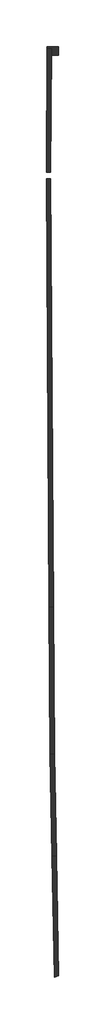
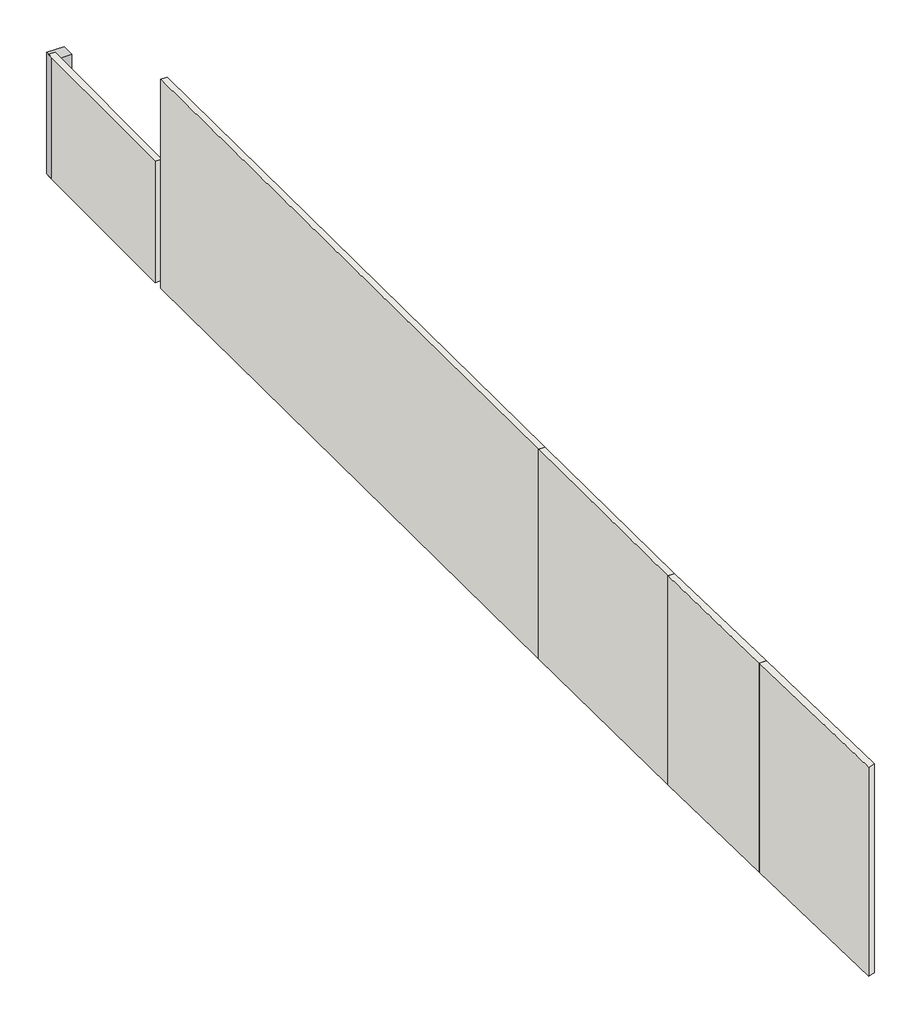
# One storey: 5 walls, 1 column.
"""IFC4 building model written with IfcOpenShell, lengths in millimetres."""

import ifcopenshell
import ifcopenshell.guid

model = None  # the IFC model being written
_history = None  # IfcOwnerHistory: only IFC2X3 demands one
_inside = {}  # id of a spatial element -> (the spatial element, [elements in it])
_under = {}  # id of a project, library or spatial element -> (it, [spatial elements below it])
_declared = {}  # id of a project -> (the project, [libraries it declares])
_typed = {}  # id of a type object -> (the type object, [elements of that type])
_made_of = {}  # id of a material, layer set ... -> (it, [elements and type objects made of it])


def new_model(schema):
    """Start an empty IFC model of exactly this schema.

    Asked for "IFC4X3", IfcOpenShell would pick the latest addendum, in which some entities
    have other attributes; the version numbers below select the first issue.
    IFC2X3 requires an IfcOwnerHistory on every rooted entity: one is made here for all.
    """
    global model, _history
    if schema == "IFC4X3":
        model = ifcopenshell.file(schema_version=(4, 3, 0, 0))
    else:
        model = ifcopenshell.file(schema=schema)
    _inside.clear()
    _under.clear()
    _declared.clear()
    _typed.clear()
    _made_of.clear()
    _history = None
    if model.schema == "IFC2X3":
        org = make("IfcOrganization", Name="unknown")
        user = make(
            "IfcPersonAndOrganization",
            ThePerson=make("IfcPerson", FamilyName="unknown"),
            TheOrganization=org,
        )
        app = make(
            "IfcApplication",
            ApplicationDeveloper=org,
            Version="unknown",
            ApplicationFullName="unknown",
            ApplicationIdentifier="unknown",
        )
        _history = make(
            "IfcOwnerHistory",
            OwningUser=user,
            OwningApplication=app,
            ChangeAction="ADDED",
            CreationDate=0,
        )
    return model


def make(cls, **values):
    """One entity of the class cls with the attributes given. An attribute that is None is left unset."""
    return model.create_entity(
        cls, **{name: value for name, value in values.items() if value is not None}
    )


def rooted(cls, **values):
    """An entity with a GlobalId (a new one), such as an element, a storey or a relation."""
    return make(cls, GlobalId=ifcopenshell.guid.new(), OwnerHistory=_history, **values)


def si_unit(unit_type, name, prefix=None):
    """IfcSIUnit, for example si_unit("LENGTHUNIT", "METRE", prefix="MILLI")."""
    return make("IfcSIUnit", UnitType=unit_type, Prefix=prefix, Name=name)


def assignment(units):
    """IfcUnitAssignment: the units of a project."""
    return None if units is None else make("IfcUnitAssignment", Units=units)


def point(xyz):
    """IfcCartesianPoint."""
    return None if xyz is None else make("IfcCartesianPoint", Coordinates=xyz)


def direction(xyz):
    """IfcDirection."""
    return None if xyz is None else make("IfcDirection", DirectionRatios=xyz)


def frame(location, z_axis=None, x_axis=None):
    """IfcAxis2Placement3D, a coordinate frame: its origin and axes. An axis left out is left unset."""
    return make(
        "IfcAxis2Placement3D",
        Location=point(location),
        Axis=direction(z_axis),
        RefDirection=direction(x_axis),
    )


def origin():
    """The frame at (0, 0, 0) with its axes left unset."""
    return frame((0.0, 0.0, 0.0))


def place(relative_to, where):
    """IfcLocalPlacement: puts the frame where relative to a parent placement (None: the world)."""
    return make(
        "IfcLocalPlacement", PlacementRelTo=relative_to, RelativePlacement=where
    )


def context(
    kind, dimensions, precision=None, world=None, true_north=None, identifier=None
):
    """IfcGeometricRepresentationContext, for example the 3D "Model" context."""
    return make(
        "IfcGeometricRepresentationContext",
        ContextIdentifier=identifier,
        ContextType=kind,
        CoordinateSpaceDimension=dimensions,
        Precision=precision,
        WorldCoordinateSystem=world,
        TrueNorth=true_north,
    )


def project(units=None, contexts=None):
    """IfcProject with its units and contexts."""
    return rooted(
        "IfcProject",
        Name="project",
        RepresentationContexts=contexts,
        UnitsInContext=assignment(units),
    )


def spatial(cls, under=None, at=None, **own):
    """A site, building, storey or space (cls), placed at a placement, below another one or the project."""
    s = rooted(cls, ObjectPlacement=at, **own)
    if under is not None:
        _under.setdefault(under.id(), (under, []))[1].append(s)
    return s


def polyline(points):
    """IfcPolyline through the points."""
    return make("IfcPolyline", Points=[point(p) for p in points])


def outline(outer, holes=None, kind="AREA"):
    """IfcArbitraryClosedProfileDef: a profile drawn as a closed curve; with holes, ...WithVoids."""
    if holes is None:
        return make("IfcArbitraryClosedProfileDef", ProfileType=kind, OuterCurve=outer)
    return make(
        "IfcArbitraryProfileDefWithVoids",
        ProfileType=kind,
        OuterCurve=outer,
        InnerCurves=holes,
    )


def extrude(swept, where, along, depth):
    """IfcExtrudedAreaSolid: the profile swept, set in the frame where, extruded along a direction by depth."""
    return make(
        "IfcExtrudedAreaSolid",
        SweptArea=swept,
        Position=where,
        ExtrudedDirection=direction(along),
        Depth=depth,
    )


def faces_of(points, faces, orient=None, outer=None):
    """IfcFace entities. A face is a list of loops; a loop is a list of indices into points, from 0.

    orient and outer hold one flag for each loop. By default every Orientation is true, the
    first loop of a face is its IfcFaceOuterBound and the others are IfcFaceBound.
    """
    made = []
    for i, loops in enumerate(faces):
        bounds = []
        for j, loop in enumerate(loops):
            is_outer = j == 0 if outer is None else outer[i][j]
            bounds.append(
                make(
                    "IfcFaceOuterBound" if is_outer else "IfcFaceBound",
                    Bound=make("IfcPolyLoop", Polygon=[points[k] for k in loop]),
                    Orientation=True if orient is None else orient[i][j],
                )
            )
        made.append(make("IfcFace", Bounds=bounds))
    return made


def faceted_brep(points, faces, orient=None, outer=None, voids=None):
    """IfcFacetedBrep: a solid bounded by flat faces; with voids (closed shells), ...WithVoids."""
    shared = [point(p) for p in points]
    hull = make("IfcClosedShell", CfsFaces=faces_of(shared, faces, orient, outer))
    if voids is None:
        return make("IfcFacetedBrep", Outer=hull)
    return make(
        "IfcFacetedBrepWithVoids",
        Outer=hull,
        Voids=[
            make(cls, CfsFaces=faces_of(shared, fs, o, b)) for cls, fs, o, b in voids
        ],
    )


def shape(context_of_items, identifier, shape_type, items):
    """IfcShapeRepresentation: the items that make up one representation, for example the "Body"."""
    return make(
        "IfcShapeRepresentation",
        ContextOfItems=context_of_items,
        RepresentationIdentifier=identifier,
        RepresentationType=shape_type,
        Items=items,
    )


def made_of(thing, what):
    """Note that an element or type object is made of a material, layer set ...; save() writes the relation."""
    if what is not None:
        _made_of.setdefault(what.id(), (what, []))[1].append(thing)
    return thing


def element(
    cls,
    number,
    at=None,
    inside=None,
    cuts=None,
    type_object=None,
    material=None,
    context=None,
    identifier="Body",
    shape_type=None,
    held_by="IfcProductDefinitionShape",
    body=None,
    shapes=None,
    **own,
):
    """One element of the class cls, such as IfcWall. Its Tag is "e" and its number.

    at: its placement. inside: the storey or other place that contains it. cuts: it is an
    opening in that element (IfcRelVoidsElement). A single representation is given by context,
    identifier, shape_type and body (its items); several are given by shapes. held_by: the class
    of the entity that holds the representations. save() writes the other relations.
    """
    e = rooted(cls, Tag="e%d" % number, ObjectPlacement=at, **own)
    if body is not None:
        shapes = [shape(context, identifier, shape_type, body)]
    if shapes is not None:
        e.Representation = make(held_by, Representations=shapes)
    if inside is not None:
        _inside.setdefault(inside.id(), (inside, []))[1].append(e)
    if cuts is not None:
        rooted(
            "IfcRelVoidsElement", RelatingBuildingElement=cuts, RelatedOpeningElement=e
        )
    if type_object is not None:
        _typed.setdefault(type_object.id(), (type_object, []))[1].append(e)
    return made_of(e, material)


def aggregate(whole, parts):
    """IfcRelAggregates: a whole, such as a stair, and the parts it consists of."""
    return rooted("IfcRelAggregates", RelatingObject=whole, RelatedObjects=parts)


def save(model, path):
    """Write the relations noted so far, then the file.

    IfcRelAggregates (storeys below a building ...), IfcRelContainedInSpatialStructure (elements
    in a storey), IfcRelDefinesByType, IfcRelAssociatesMaterial and IfcRelDeclares: one each for
    every whole, place, type object, material and project.
    """
    for whole, parts in _under.values():
        aggregate(whole, parts)
    for where, things in _inside.values():
        rooted(
            "IfcRelContainedInSpatialStructure",
            RelatedElements=things,
            RelatingStructure=where,
        )
    for kind, things in _typed.values():
        rooted("IfcRelDefinesByType", RelatedObjects=things, RelatingType=kind)
    for what, things in _made_of.values():
        rooted("IfcRelAssociatesMaterial", RelatedObjects=things, RelatingMaterial=what)
    for by, libraries in _declared.values():
        rooted("IfcRelDeclares", RelatingContext=by, RelatedDefinitions=libraries)
    model.write(path)


model = new_model("IFC4")

# Units and contexts
model_context = context("Model", 3, world=origin())
ifc_project = project(units=[si_unit("LENGTHUNIT", "METRE", prefix="MILLI")], contexts=[model_context])

# Site, building, storey
site = spatial("IfcSite", under=ifc_project)
building = spatial("IfcBuilding", under=site)
storey = spatial("IfcBuildingStorey", under=building, Name="Terreno (Implantação e Coberta)", Elevation=-500.0)

# Column
placement = place(None, origin())
element("IfcColumn", 1, ObjectType="Concreto Retangular : 0.20 x 0.30 m", at=placement, inside=storey, context=model_context, shape_type="SweptSolid", body=[
    extrude(outline(polyline([(-4308.5252501, 16695.2417608), (-4308.5252501, 16395.2417608), (-4708.5252501, 16395.2417608), (-4708.5252501, 16695.2417608), (-4308.5252501, 16695.2417608)])), frame((0.0, 0.0, -500.0), z_axis=(0.0, 0.0, 1.0), x_axis=(1.0, 0.0, 0.0)), (0.0, 0.0, 1.0), 2900.0),
])

# Walls
element("IfcWall", 2, ObjectType="Parede 0.15m", at=placement, inside=storey, context=model_context, shape_type="Brep", body=[
    faceted_brep([(-4730.6216655, 12185.2417838, 4500.0), (-4730.6216655, 12185.2417838, -500.0), (-4640.3190773, -2455.5469898, -500.0), (-4640.3190773, -2455.5469898, 4500.0), (-4580.6188123, 12185.2417838, -500.0), (-4580.6188123, 12185.2417838, 0.0), (-4580.6188123, 12185.2417838, 3050.0), (-4580.6188123, 12185.2417838, 4500.0), (-4490.3228068, -2454.4797525, 4500.0), (-4490.3228068, -2454.4797525, -500.0), (-4515.3221852, -2454.6576254, -500.0), (-4605.6192878, 12185.2417838, -500.0)], [[[0, 1, 2, 3]], [[4, 5, 6, 7, 8, 9]], [[3, 2, 10, 9, 8]], [[0, 3, 8, 7]], [[2, 1, 11, 10]], [[0, 7, 6, 5, 4, 11, 1]], [[11, 4, 9, 10]]]),
])
element("IfcWall", 3, ObjectType="Parede 0.15m", at=placement, inside=storey, context=model_context, shape_type="Brep", body=[
    faceted_brep([(-4640.3190773, -2455.5469897, -500.0), (-4599.952245, -7462.3974921, -500.0), (-4599.952245, -7462.3974921, 4500.0), (-4640.3190773, -2455.5469897, 4500.0), (-4490.3228068, -2454.4797524, -500.0), (-4490.3228068, -2454.4797524, 4500.0), (-4449.9636914, -7460.373085, 4500.0), (-4449.9636914, -7460.373085, -500.0), (-4515.3221852, -2454.6576253, -500.0), (-4474.9617837, -7460.7104862, -500.0)], [[[0, 1, 2, 3]], [[4, 5, 6, 7]], [[3, 2, 6, 5]], [[1, 0, 8, 9]], [[0, 3, 5, 4, 8]], [[8, 4, 7, 9]], [[2, 1, 9, 7, 6]]]),
])
element("IfcWall", 4, ObjectType="Parede 0.15m", at=placement, inside=storey, context=model_context, shape_type="Brep", body=[
    faceted_brep([(-4599.952245, -7462.3974921, -500.0), (-4534.0630632, -10942.588945, -500.0), (-4534.0630632, -10942.588945, 4500.0), (-4599.952245, -7462.3974921, 4500.0), (-4449.9636914, -7460.373085, -500.0), (-4449.9636914, -7460.373085, 4500.0), (-4384.0899393, -10939.7495592, 4500.0), (-4384.0899393, -10939.7495592, -500.0), (-4409.08546, -10940.2227902, -500.0), (-4474.9617837, -7460.7104862, -500.0)], [[[0, 1, 2, 3]], [[4, 5, 6, 7]], [[2, 1, 8, 7, 6]], [[3, 2, 6, 5]], [[1, 0, 9, 8]], [[0, 3, 5, 4, 9]], [[9, 4, 7, 8]]]),
])
element("IfcWall", 5, ObjectType="Parede 0.15m", at=placement, inside=storey, context=model_context, shape_type="Brep", body=[
    faceted_brep([(-4534.0636202, -10942.5595255, -500.0), (-4457.1971992, -15088.5006015, -500.0), (-4457.1971992, -15088.5006015, 4500.0), (-4534.0636202, -10942.5595255, 4500.0), (-4384.0893939, -10939.778979, -500.0), (-4384.0893939, -10939.778979, 4500.0), (-4308.0968162, -15038.5876005, 4500.0), (-4308.0968162, -15038.5876005, 0.0), (-4308.0968162, -15038.5876005, -500.0), (-4409.0850983, -10940.2424034, -500.0), (-4332.94688, -15046.906434, -500.0)], [[[0, 1, 2, 3]], [[4, 5, 6, 7, 8]], [[3, 2, 6, 5]], [[0, 3, 5, 4, 9]], [[1, 0, 9, 10]], [[9, 4, 8, 10]], [[2, 1, 10, 8, 7, 6]]]),
])
element("IfcWall", 6, ObjectType="Parede 0.15m", at=placement, inside=storey, context=model_context, shape_type="Brep", body=[
    faceted_brep([(-4707.6716678, 16620.6288395, -500.0), (-4729.4061493, 12409.4325847, -500.0), (-4729.4061493, 12409.4325847, 2400.0), (-4707.6716678, 16620.6288395, 2400.0), (-4557.6736656, 16619.8546821, -500.0), (-4557.6736656, 16619.8546821, 2400.0), (-4579.4061493, 12409.0455034, 2400.0), (-4579.4061493, 12409.0455034, -500.0), (-4582.6733326, 16619.9837083, -500.0), (-4604.4061493, 12409.1100169, -500.0)], [[[0, 1, 2, 3]], [[4, 5, 6, 7]], [[3, 2, 6, 5]], [[0, 3, 5, 4, 8]], [[1, 0, 8, 9]], [[8, 4, 7, 9]], [[2, 1, 9, 7, 6]]]),
])

save(model, "model.ifc")
